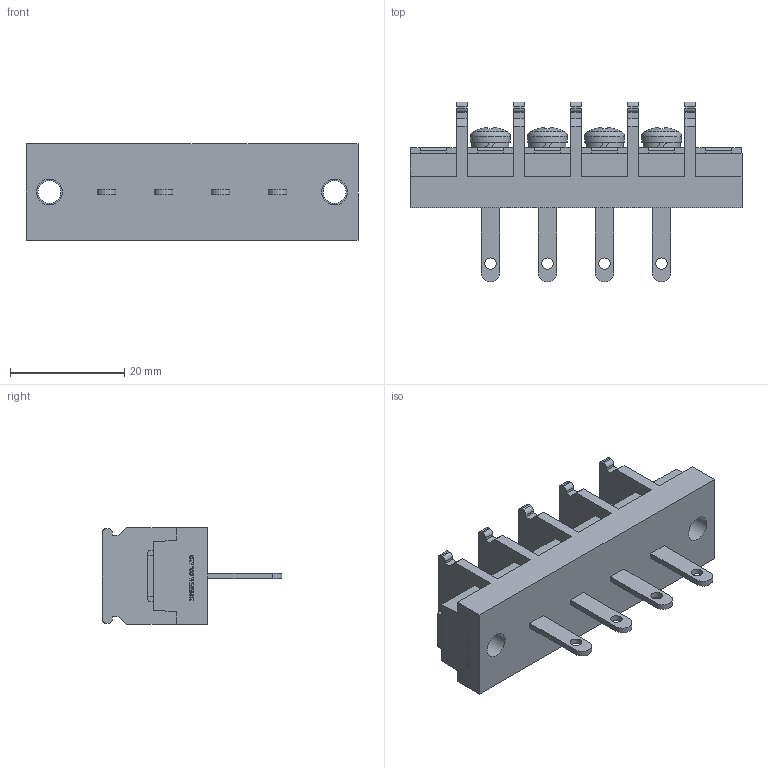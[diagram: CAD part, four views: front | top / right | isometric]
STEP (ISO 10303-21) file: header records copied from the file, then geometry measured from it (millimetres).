
FILE_DESCRIPTION(/* description */ ('Alibre Inc.'),/* implementation_level */ '2;1');
FILE_NAME(/* name */ 'export0',/* time_stamp */ '2015-10-14T19:08:15+09:00',/* author */ (''),/* organization */ (''),/* preprocessor_version */ 'ST-DEVELOPER v14',/* originating_system */ 'Alibre',/* authorisation */ '');
FILE_SCHEMA (('CONFIG_CONTROL_DESIGN'));
Length unit declared in the file: centimetre
Products named in the file (1): ID_1
Bounding box: 58.2 x 31.5 x 17 mm (x, y, z)
Volume: 10398.4 mm3; surface area: 6537.2 mm2
Topology: 1 solids, 17 shells, 716 faces, 1930 edges, 1284 vertices
Faces by surface type: plane 528, bspline 104, cylinder 56, cone 16, torus 8, sphere 4
Full cylindrical faces by diameter (mm): 2 x4, 4 x6, 4.5 x2, 6.5 x4, 7 x4
Entity records: 21710 total; most frequent: CARTESIAN_POINT 4927, ORIENTED_EDGE 3780, DIRECTION 2566, EDGE_CURVE 1890, VECTOR 1420, LINE 1420, VERTEX_POINT 1268, AXIS2_PLACEMENT_3D 831
